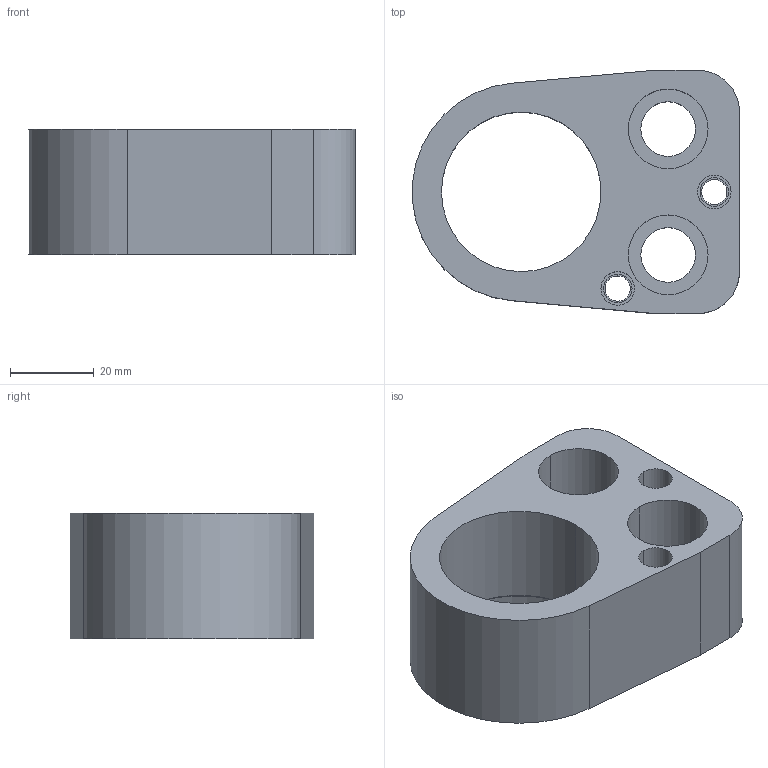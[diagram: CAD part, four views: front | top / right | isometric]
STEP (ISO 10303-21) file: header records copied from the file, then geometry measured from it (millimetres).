
FILE_DESCRIPTION(/* description */ (''),/* implementation_level */ '2;1');
FILE_NAME(/* name */ '3d_dp-an38_03687_r00.stp',/* time_stamp */ '2011-01-10T14:15:58+09:00',/* author */ ('MISUMI'),/* organization */ (''),/* preprocessor_version */ 'ST-DEVELOPER v11',/* originating_system */ 'UGS - NX 5.0',/* authorisation */ '');
FILE_SCHEMA (('CONFIG_CONTROL_DESIGN'));
Length unit declared in the file: millimetre
Products named in the file (1): 3d_dp-an38_03687_r00
Bounding box: 77.9 x 58 x 30 mm (x, y, z)
Volume: 68520.9 mm3; surface area: 19958.5 mm2
Topology: 1 solids, 1 shells, 43 faces, 100 edges, 66 vertices
Faces by surface type: cylinder 27, plane 14, cone 2
Entity records: 1360 total; most frequent: DIRECTION 244, CARTESIAN_POINT 210, ORIENTED_EDGE 200, EDGE_CURVE 100, AXIS2_PLACEMENT_3D 100, VERTEX_POINT 66, EDGE_LOOP 60, CIRCLE 56
